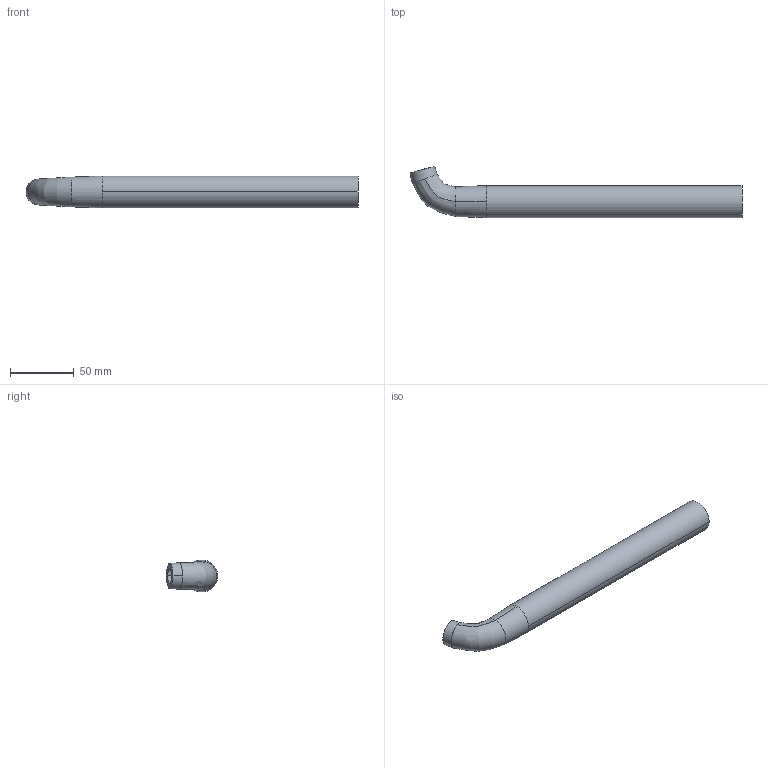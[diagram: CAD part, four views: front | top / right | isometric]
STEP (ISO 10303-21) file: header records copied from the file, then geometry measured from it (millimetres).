
FILE_DESCRIPTION( (''), '2;1');
FILE_NAME ('SY-2080-08_TB-25250-15-A.stp','2022-04-09T13:40:12',(''),(''),'spGate 18.9.3 (****-****-****-****)','','');
FILE_SCHEMA (('AUTOMOTIVE_DESIGN'));
Length unit declared in the file: millimetre
Products named in the file (11): Assembly; SY-2080-08_TB-25250-15-A-prt0; SY-2080-08_TB-25250-15-A-prt1; SY-2080-08_TB-25250-15-A-prt2; SY-2080-08_TB-25250-15-A-prt3; SY-2080-08_TB-25250-15-A-prt4; SY-2080-08_TB-25250-15-A-prt5; SY-2080-08_TB-25250-15-A-prt6; SY-2080-08_TB-25250-15-A-prt7; SY-2080-08_TB-25250-15-A-prt8; SY-2080-08_TB-25250-15-A-prt9
Assembly tree (10 placements, depth 2):
  Assembly
    SY-2080-08_TB-25250-15-A-prt0
    SY-2080-08_TB-25250-15-A-prt1
    SY-2080-08_TB-25250-15-A-prt2
    SY-2080-08_TB-25250-15-A-prt3
    SY-2080-08_TB-25250-15-A-prt4
    SY-2080-08_TB-25250-15-A-prt5
    SY-2080-08_TB-25250-15-A-prt6
    SY-2080-08_TB-25250-15-A-prt7
    SY-2080-08_TB-25250-15-A-prt8
    SY-2080-08_TB-25250-15-A-prt9
Bounding box: 259.66 x 40.09 x 25 mm (x, y, z)
Volume: 105396 mm3; surface area: 28337.7 mm2
Topology: 1 solids, 1 shells, 29 faces, 78 edges, 62 vertices
Faces by surface type: bspline 17, plane 6, cylinder 6
Entity records: 2588 total; most frequent: CARTESIAN_POINT 1140, DIRECTION 150, ORIENTED_EDGE 136, COLOUR_RGB 107, PRESENTATION_STYLE_ASSIGNMENT 107, STYLED_ITEM 107, DRAUGHTING_PRE_DEFINED_CURVE_FONT 77, CURVE_STYLE 77
